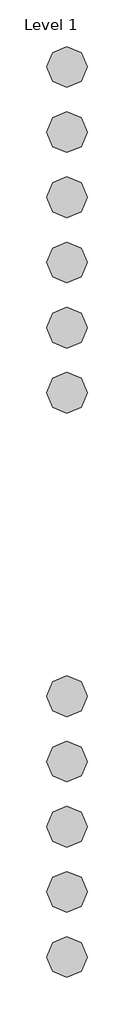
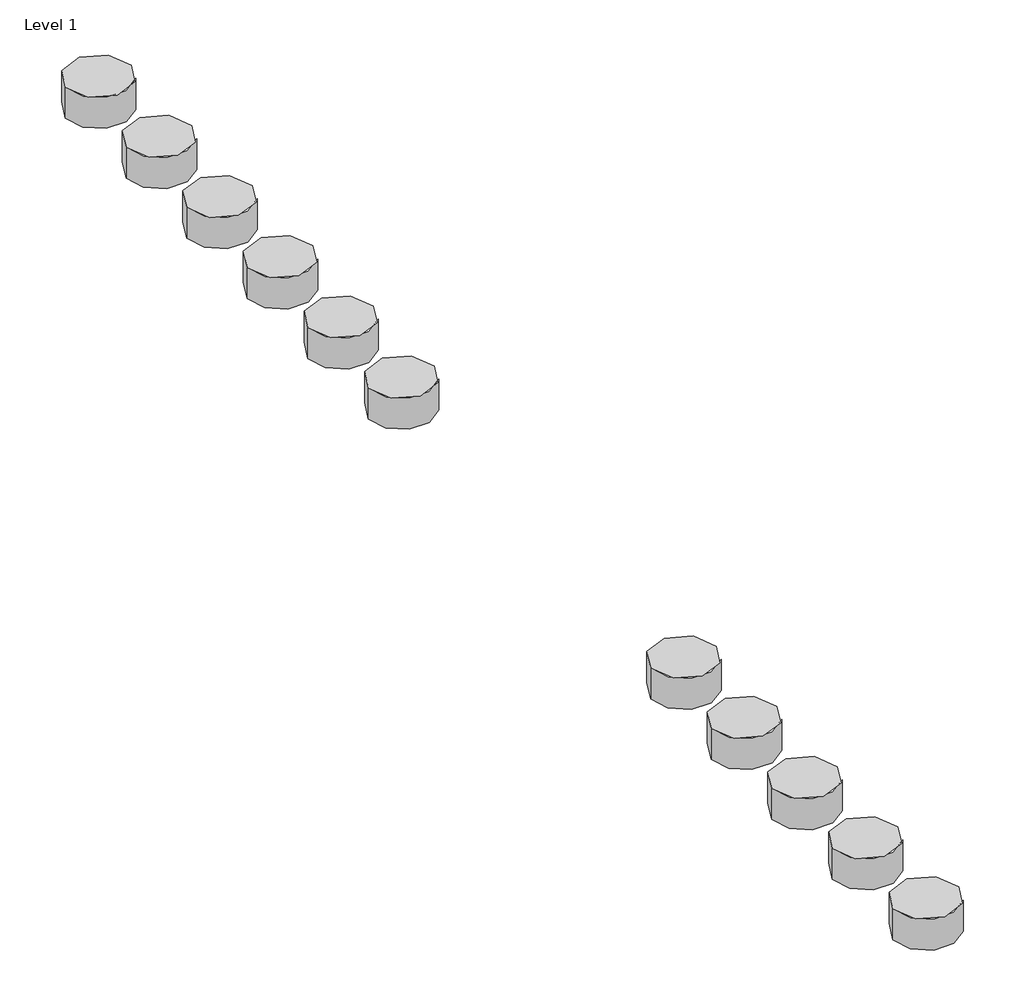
# One storey, incomplete: 11 proxies.
"""IFC4 building model written with IfcOpenShell, lengths in millimetres."""

from ifc_helpers import new_model, si_unit, origin, place, context, project, spatial, transform, mapped, element, save
from components import materialmodel_materialmodel_02e69005

model = new_model("IFC4")

# Units and contexts
model_context = context("Model", 3, world=origin())
ifc_project = project(units=[si_unit("LENGTHUNIT", "METRE", prefix="MILLI")], contexts=[model_context])

# Site, building, storey
site = spatial("IfcSite", under=ifc_project)
building = spatial("IfcBuilding", under=site)
storey = spatial("IfcBuildingStorey", under=building, Name="Level 1", Elevation=0.0)

# Proxies
placement = place(None, origin())
materialmodel_materialmodel_shape = materialmodel_materialmodel_02e69005(model_context)
element("IfcBuildingElementProxy", 1, Name="MaterialModel : MaterialModel", ObjectType="MaterialModel : MaterialModel", at=placement, inside=storey, context=model_context, shape_type="MappedRepresentation", body=[
    mapped(materialmodel_materialmodel_shape, transform((-5472.1657896, 4594.5048486, 0.0), x_axis=(1.0, 0.0, 0.0), y_axis=(0.0, 1.0, 0.0), z_axis=(0.0, 0.0, 1.0))),
])
element("IfcBuildingElementProxy", 2, Name="MaterialModel : MaterialModel", ObjectType="MaterialModel : MaterialModel", at=placement, inside=storey, context=model_context, shape_type="MappedRepresentation", body=[
    mapped(materialmodel_materialmodel_shape, transform((-5472.1657896, 4434.5048486, 0.0), x_axis=(1.0, 0.0, 0.0), y_axis=(0.0, 1.0, 0.0), z_axis=(0.0, 0.0, 1.0))),
])
element("IfcBuildingElementProxy", 3, Name="MaterialModel : MaterialModel", ObjectType="MaterialModel : MaterialModel", at=placement, inside=storey, context=model_context, shape_type="MappedRepresentation", body=[
    mapped(materialmodel_materialmodel_shape, transform((-5472.1657896, 4274.5048486, 0.0), x_axis=(1.0, 0.0, 0.0), y_axis=(0.0, 1.0, 0.0), z_axis=(0.0, 0.0, 1.0))),
])
element("IfcBuildingElementProxy", 4, Name="MaterialModel : MaterialModel", ObjectType="MaterialModel : MaterialModel", at=placement, inside=storey, context=model_context, shape_type="MappedRepresentation", body=[
    mapped(materialmodel_materialmodel_shape, transform((-5472.1657896, 4114.5048486, 0.0), x_axis=(1.0, 0.0, 0.0), y_axis=(0.0, 1.0, 0.0), z_axis=(0.0, 0.0, 1.0))),
])
element("IfcBuildingElementProxy", 5, Name="MaterialModel : MaterialModel", ObjectType="MaterialModel : MaterialModel", at=placement, inside=storey, context=model_context, shape_type="MappedRepresentation", body=[
    mapped(materialmodel_materialmodel_shape, transform((-5472.1657896, 3954.5048486, 0.0), x_axis=(1.0, 0.0, 0.0), y_axis=(0.0, 1.0, 0.0), z_axis=(0.0, 0.0, 1.0))),
])
element("IfcBuildingElementProxy", 6, Name="MaterialModel : MaterialModel", ObjectType="MaterialModel : MaterialModel", at=placement, inside=storey, context=model_context, shape_type="MappedRepresentation", body=[
    mapped(materialmodel_materialmodel_shape, transform((-5472.1657896, 3794.5048486, 0.0), x_axis=(1.0, 0.0, 0.0), y_axis=(0.0, 1.0, 0.0), z_axis=(0.0, 0.0, 1.0))),
])
element("IfcBuildingElementProxy", 7, Name="MaterialModel : MaterialModel", ObjectType="MaterialModel : MaterialModel", at=placement, inside=storey, context=model_context, shape_type="MappedRepresentation", body=[
    mapped(materialmodel_materialmodel_shape, transform((-5472.1657896, 3049.5452225, 0.0), x_axis=(1.0, 0.0, 0.0), y_axis=(0.0, 1.0, 0.0), z_axis=(0.0, 0.0, 1.0))),
])
element("IfcBuildingElementProxy", 8, Name="MaterialModel : MaterialModel", ObjectType="MaterialModel : MaterialModel", at=placement, inside=storey, context=model_context, shape_type="MappedRepresentation", body=[
    mapped(materialmodel_materialmodel_shape, transform((-5472.1657896, 2889.5452225, 0.0), x_axis=(1.0, 0.0, 0.0), y_axis=(0.0, 1.0, 0.0), z_axis=(0.0, 0.0, 1.0))),
])
element("IfcBuildingElementProxy", 9, Name="MaterialModel : MaterialModel", ObjectType="MaterialModel : MaterialModel", at=placement, inside=storey, context=model_context, shape_type="MappedRepresentation", body=[
    mapped(materialmodel_materialmodel_shape, transform((-5472.1657896, 2729.5452225, 0.0), x_axis=(1.0, 0.0, 0.0), y_axis=(0.0, 1.0, 0.0), z_axis=(0.0, 0.0, 1.0))),
])
element("IfcBuildingElementProxy", 10, Name="MaterialModel : MaterialModel", ObjectType="MaterialModel : MaterialModel", at=placement, inside=storey, context=model_context, shape_type="MappedRepresentation", body=[
    mapped(materialmodel_materialmodel_shape, transform((-5472.1657896, 2569.5452225, 0.0), x_axis=(1.0, 0.0, 0.0), y_axis=(0.0, 1.0, 0.0), z_axis=(0.0, 0.0, 1.0))),
])
element("IfcBuildingElementProxy", 11, Name="MaterialModel : MaterialModel", ObjectType="MaterialModel : MaterialModel", at=placement, inside=storey, context=model_context, shape_type="MappedRepresentation", body=[
    mapped(materialmodel_materialmodel_shape, transform((-5472.1657896, 2409.5452225, 0.0), x_axis=(1.0, 0.0, 0.0), y_axis=(0.0, 1.0, 0.0), z_axis=(0.0, 0.0, 1.0))),
])

save(model, "model.ifc")
